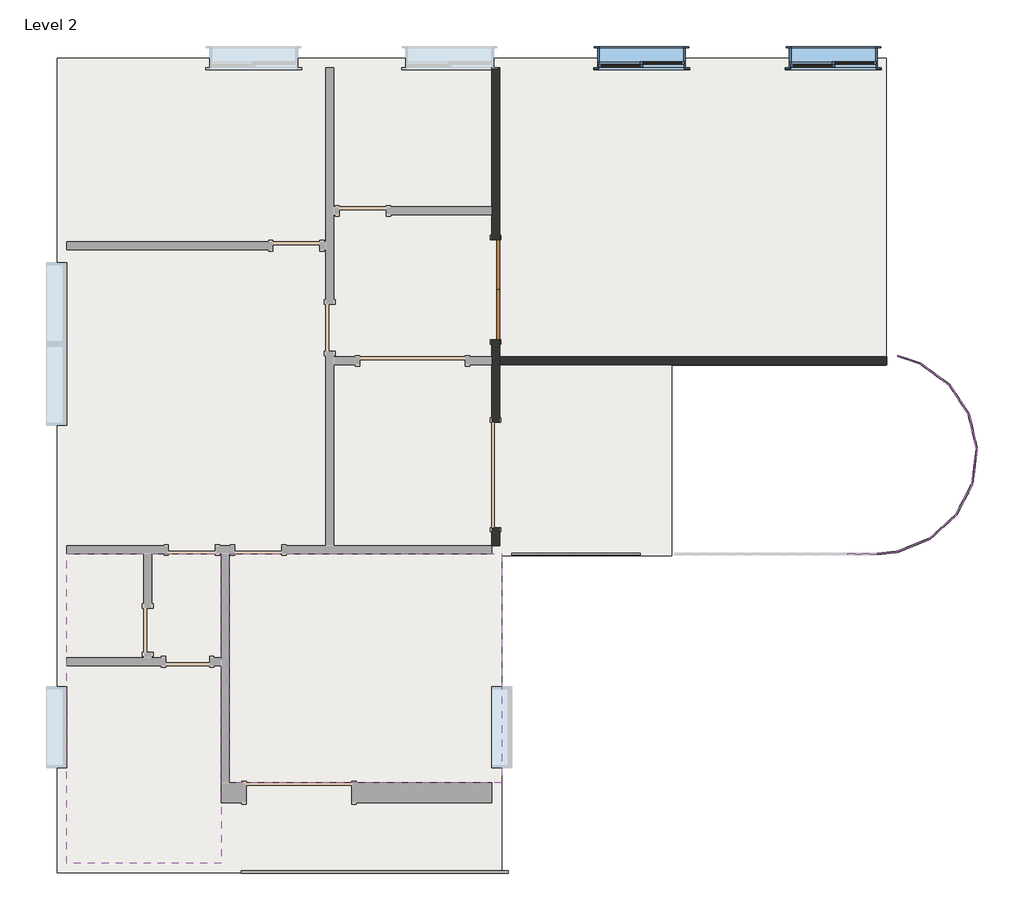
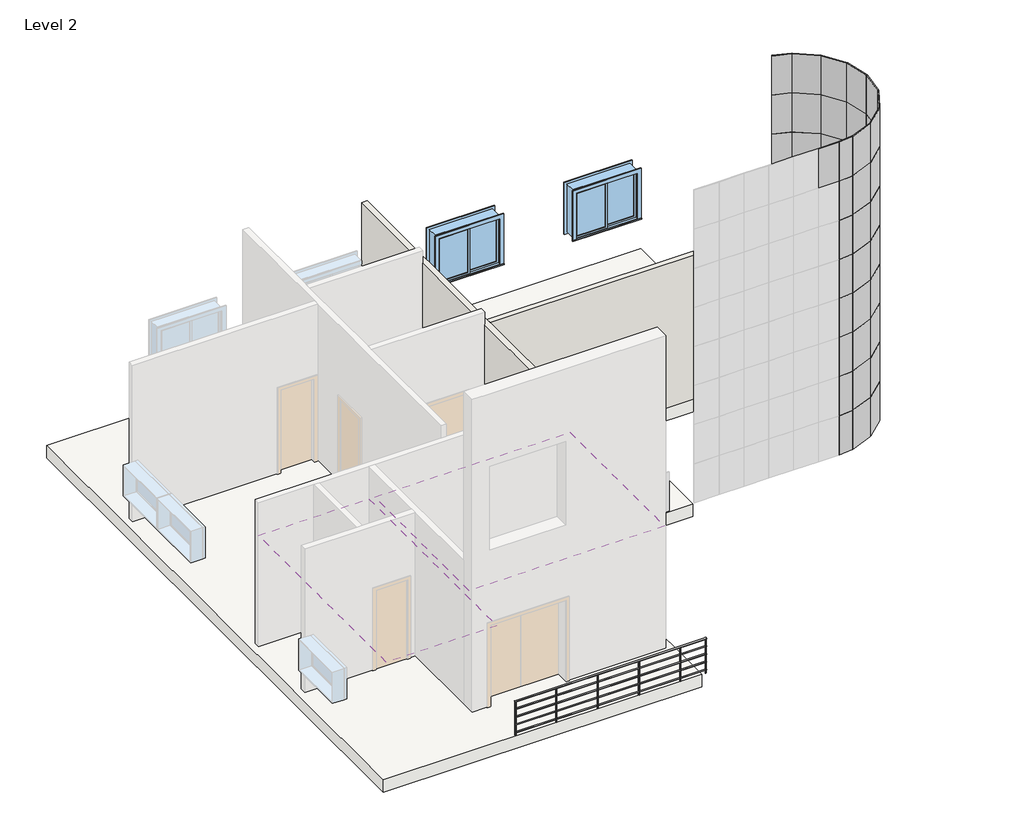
# One storey, part 2 of 2: 73 plates, 2 coverings, 2 railings, 2 walls, 2 windows, 1 door, 1 slab.
"""IFC4 building model written with IfcOpenShell, lengths in millimetres."""

from ifc_helpers import new_model, si_unit, frame, origin, place, context, project, spatial, polyline, outline, extrude, faceted_brep, transform, mapped, element, save
from components import m_double_flush_1730_x_2134mm_e0861497, system_panel_glazed_c3ce6646, system_panel_glazed_8955cf43, system_panel_glazed_1582ece5, system_panel_glazed_87374f63, railing_900mm_pipe_45b1395d, m_sliding_with_trim_1830_x_1220mm_f8e2f31e

model = new_model("IFC4")

# Units and contexts
model_context = context("Model", 3, world=origin())
ifc_project = project(units=[si_unit("LENGTHUNIT", "METRE", prefix="MILLI")], contexts=[model_context])

# Site, building, storey
site = spatial("IfcSite", under=ifc_project)
building = spatial("IfcBuilding", under=site)
storey = spatial("IfcBuildingStorey", under=building, Name="Level 2", Elevation=4000.0)

# Coverings
placement = place(None, origin())
element("IfcCovering", 1, ObjectType="600 x 600mm grid", at=placement, inside=storey, context=model_context, shape_type="SweptSolid", body=[
    extrude(outline(polyline([(-4505.3077176, -4075.1973194), (-7180.3077176, -4075.1973194), (-7180.3077176, 1286.3026806), (-4505.3077176, 1286.3026806), (-4505.3077176, -4075.1973194)])), frame((0.0, 0.0, 6850.0), z_axis=(0.0, 0.0, 1.0), x_axis=(1.0, 0.0, 0.0)), (0.0, 0.0, 1.0), 52.0),
])
element("IfcCovering", 2, ObjectType="600 x 600mm grid", at=placement, inside=storey, context=model_context, shape_type="SweptSolid", body=[
    extrude(outline(polyline([(357.3775179, 1286.3026806), (357.3775179, -2675.1973194), (-4366.8077176, -2675.1973194), (-4366.8077176, 1286.3026806), (357.3775179, 1286.3026806)])), frame((0.0, 0.0, 6850.0), z_axis=(0.0, 0.0, 1.0), x_axis=(1.0, 0.0, 0.0)), (0.0, 0.0, 1.0), 52.0),
])

# Door
m_double_flush_1730_x_2134mm_shape = m_double_flush_1730_x_2134mm_e0861497(model_context)
element("IfcDoor", 3, ObjectType="M_Double-Flush : 1730 x 2134mm", at=placement, inside=storey, context=model_context, shape_type="MappedRepresentation", body=[
    mapped(m_double_flush_1730_x_2134mm_shape, transform((251.6275179, 5865.0261065, 4000.0), x_axis=(0.0, -1.0, 0.0), y_axis=(1.0, 0.0, 0.0), z_axis=(0.0, 0.0, 1.0))),
])

# Plates
system_panel_glazed_shape = system_panel_glazed_c3ce6646(model_context)
element("IfcPlate", 4, ObjectType="System Panel : Glazed", at=placement, inside=storey, context=model_context, shape_type="MappedRepresentation", body=[
    mapped(system_panel_glazed_shape, transform((7851.5037845, 4369.0611889, 4000.0), x_axis=(0.8040191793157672, -0.5946033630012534, 0.0), y_axis=(0.5946033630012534, 0.8040191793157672, 0.0), z_axis=(0.0, 0.0, 1.0))),
])
element("IfcPlate", 5, ObjectType="System Panel : Glazed", at=placement, inside=storey, context=model_context, shape_type="MappedRepresentation", body=[
    mapped(system_panel_glazed_shape, transform((8256.9221615, 3939.6140246, 4000.0), x_axis=(0.5473754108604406, -0.8368871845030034, 0.0), y_axis=(0.8368871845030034, 0.5473754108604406, 0.0), z_axis=(0.0, 0.0, 1.0))),
])
element("IfcPlate", 6, ObjectType="System Panel : Glazed", at=placement, inside=storey, context=model_context, shape_type="MappedRepresentation", body=[
    mapped(system_panel_glazed_shape, transform((8487.8987258, 3396.0712443, 4000.0), x_axis=(0.22254647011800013, -0.9749220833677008, 0.0), y_axis=(0.9749220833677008, 0.22254647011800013, 0.0), z_axis=(0.0, 0.0, 1.0))),
])
element("IfcPlate", 7, ObjectType="System Panel : Glazed", at=placement, inside=storey, context=model_context, shape_type="MappedRepresentation", body=[
    mapped(system_panel_glazed_shape, transform((8515.6613102, 2806.140599, 4000.0), x_axis=(-0.13000452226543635, -0.9915134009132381, 0.0), y_axis=(0.9915134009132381, -0.13000452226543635, 0.0), z_axis=(0.0, 0.0, 1.0))),
])
element("IfcPlate", 8, ObjectType="System Panel : Glazed", at=placement, inside=storey, context=model_context, shape_type="MappedRepresentation", body=[
    mapped(system_panel_glazed_shape, transform((7851.5037845, 4369.0611889, 5000.0), x_axis=(0.8040191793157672, -0.5946033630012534, 0.0), y_axis=(0.5946033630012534, 0.8040191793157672, 0.0), z_axis=(0.0, 0.0, 1.0))),
])
element("IfcPlate", 9, ObjectType="System Panel : Glazed", at=placement, inside=storey, context=model_context, shape_type="MappedRepresentation", body=[
    mapped(system_panel_glazed_shape, transform((8256.9221615, 3939.6140246, 5000.0), x_axis=(0.5473754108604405, -0.8368871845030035, 0.0), y_axis=(0.8368871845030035, 0.5473754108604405, 0.0), z_axis=(0.0, 0.0, 1.0))),
])
element("IfcPlate", 10, ObjectType="System Panel : Glazed", at=placement, inside=storey, context=model_context, shape_type="MappedRepresentation", body=[
    mapped(system_panel_glazed_shape, transform((8487.8987258, 3396.0712443, 5000.0), x_axis=(0.2225464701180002, -0.9749220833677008, 0.0), y_axis=(0.9749220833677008, 0.2225464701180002, 0.0), z_axis=(0.0, 0.0, 1.0))),
])
element("IfcPlate", 11, ObjectType="System Panel : Glazed", at=placement, inside=storey, context=model_context, shape_type="MappedRepresentation", body=[
    mapped(system_panel_glazed_shape, transform((8515.6613102, 2806.140599, 5000.0), x_axis=(-0.13000452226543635, -0.9915134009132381, 0.0), y_axis=(0.9915134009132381, -0.13000452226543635, 0.0), z_axis=(0.0, 0.0, 1.0))),
])
element("IfcPlate", 12, ObjectType="System Panel : Glazed", at=placement, inside=storey, context=model_context, shape_type="MappedRepresentation", body=[
    mapped(system_panel_glazed_shape, transform((7851.5037845, 4369.0611889, 6000.0), x_axis=(0.8040191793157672, -0.5946033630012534, 0.0), y_axis=(0.5946033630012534, 0.8040191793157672, 0.0), z_axis=(0.0, 0.0, 1.0))),
])
element("IfcPlate", 13, ObjectType="System Panel : Glazed", at=placement, inside=storey, context=model_context, shape_type="MappedRepresentation", body=[
    mapped(system_panel_glazed_shape, transform((8256.9221615, 3939.6140246, 6000.0), x_axis=(0.5473754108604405, -0.8368871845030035, 0.0), y_axis=(0.8368871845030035, 0.5473754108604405, 0.0), z_axis=(0.0, 0.0, 1.0))),
])
element("IfcPlate", 14, ObjectType="System Panel : Glazed", at=placement, inside=storey, context=model_context, shape_type="MappedRepresentation", body=[
    mapped(system_panel_glazed_shape, transform((8487.8987258, 3396.0712443, 6000.0), x_axis=(0.2225464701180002, -0.9749220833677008, 0.0), y_axis=(0.9749220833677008, 0.2225464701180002, 0.0), z_axis=(0.0, 0.0, 1.0))),
])
element("IfcPlate", 15, ObjectType="System Panel : Glazed", at=placement, inside=storey, context=model_context, shape_type="MappedRepresentation", body=[
    mapped(system_panel_glazed_shape, transform((8515.6613102, 2806.140599, 6000.0), x_axis=(-0.13000452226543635, -0.9915134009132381, 0.0), y_axis=(0.9915134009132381, -0.13000452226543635, 0.0), z_axis=(0.0, 0.0, 1.0))),
])
element("IfcPlate", 16, ObjectType="System Panel : Glazed", at=placement, inside=storey, context=model_context, shape_type="MappedRepresentation", body=[
    mapped(system_panel_glazed_shape, transform((7851.5037845, 4369.0611889, 7000.0), x_axis=(0.8040191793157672, -0.5946033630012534, 0.0), y_axis=(0.5946033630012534, 0.8040191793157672, 0.0), z_axis=(0.0, 0.0, 1.0))),
])
element("IfcPlate", 17, ObjectType="System Panel : Glazed", at=placement, inside=storey, context=model_context, shape_type="MappedRepresentation", body=[
    mapped(system_panel_glazed_shape, transform((8256.9221615, 3939.6140246, 7000.0), x_axis=(0.5473754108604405, -0.8368871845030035, 0.0), y_axis=(0.8368871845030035, 0.5473754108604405, 0.0), z_axis=(0.0, 0.0, 1.0))),
])
element("IfcPlate", 18, ObjectType="System Panel : Glazed", at=placement, inside=storey, context=model_context, shape_type="MappedRepresentation", body=[
    mapped(system_panel_glazed_shape, transform((8487.8987258, 3396.0712443, 7000.0), x_axis=(0.2225464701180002, -0.9749220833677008, 0.0), y_axis=(0.9749220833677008, 0.2225464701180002, 0.0), z_axis=(0.0, 0.0, 1.0))),
])
element("IfcPlate", 19, ObjectType="System Panel : Glazed", at=placement, inside=storey, context=model_context, shape_type="MappedRepresentation", body=[
    mapped(system_panel_glazed_shape, transform((8515.6613102, 2806.140599, 7000.0), x_axis=(-0.13000452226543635, -0.9915134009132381, 0.0), y_axis=(0.9915134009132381, -0.13000452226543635, 0.0), z_axis=(0.0, 0.0, 1.0))),
])
element("IfcPlate", 20, ObjectType="System Panel : Glazed", at=placement, inside=storey, context=model_context, shape_type="MappedRepresentation", body=[
    mapped(system_panel_glazed_shape, transform((7851.5037845, 4369.0611889, 8000.0), x_axis=(0.804019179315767, -0.5946033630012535, 0.0), y_axis=(0.5946033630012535, 0.804019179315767, 0.0), z_axis=(0.0, 0.0, 1.0))),
])
element("IfcPlate", 21, ObjectType="System Panel : Glazed", at=placement, inside=storey, context=model_context, shape_type="MappedRepresentation", body=[
    mapped(system_panel_glazed_shape, transform((8256.9221615, 3939.6140246, 8000.0), x_axis=(0.5473754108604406, -0.8368871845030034, 0.0), y_axis=(0.8368871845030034, 0.5473754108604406, 0.0), z_axis=(0.0, 0.0, 1.0))),
])
element("IfcPlate", 22, ObjectType="System Panel : Glazed", at=placement, inside=storey, context=model_context, shape_type="MappedRepresentation", body=[
    mapped(system_panel_glazed_shape, transform((8487.8987258, 3396.0712443, 8000.0), x_axis=(0.2225464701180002, -0.9749220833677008, 0.0), y_axis=(0.9749220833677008, 0.2225464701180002, 0.0), z_axis=(0.0, 0.0, 1.0))),
])
element("IfcPlate", 23, ObjectType="System Panel : Glazed", at=placement, inside=storey, context=model_context, shape_type="MappedRepresentation", body=[
    mapped(system_panel_glazed_shape, transform((8515.6613102, 2806.140599, 8000.0), x_axis=(-0.13000452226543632, -0.9915134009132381, 0.0), y_axis=(0.9915134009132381, -0.13000452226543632, 0.0), z_axis=(0.0, 0.0, 1.0))),
])
element("IfcPlate", 24, ObjectType="System Panel : Glazed", at=placement, inside=storey, context=model_context, shape_type="MappedRepresentation", body=[
    mapped(system_panel_glazed_shape, transform((7851.5037845, 4369.0611889, 9000.0), x_axis=(0.8040191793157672, -0.5946033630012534, 0.0), y_axis=(0.5946033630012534, 0.8040191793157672, 0.0), z_axis=(0.0, 0.0, 1.0))),
])
element("IfcPlate", 25, ObjectType="System Panel : Glazed", at=placement, inside=storey, context=model_context, shape_type="MappedRepresentation", body=[
    mapped(system_panel_glazed_shape, transform((8256.9221615, 3939.6140246, 9000.0), x_axis=(0.5473754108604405, -0.8368871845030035, 0.0), y_axis=(0.8368871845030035, 0.5473754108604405, 0.0), z_axis=(0.0, 0.0, 1.0))),
])
element("IfcPlate", 26, ObjectType="System Panel : Glazed", at=placement, inside=storey, context=model_context, shape_type="MappedRepresentation", body=[
    mapped(system_panel_glazed_shape, transform((8487.8987258, 3396.0712443, 9000.0), x_axis=(0.2225464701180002, -0.9749220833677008, 0.0), y_axis=(0.9749220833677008, 0.2225464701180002, 0.0), z_axis=(0.0, 0.0, 1.0))),
])
element("IfcPlate", 27, ObjectType="System Panel : Glazed", at=placement, inside=storey, context=model_context, shape_type="MappedRepresentation", body=[
    mapped(system_panel_glazed_shape, transform((8515.6613102, 2806.140599, 9000.0), x_axis=(-0.13000452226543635, -0.9915134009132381, 0.0), y_axis=(0.9915134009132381, -0.13000452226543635, 0.0), z_axis=(0.0, 0.0, 1.0))),
])
element("IfcPlate", 28, ObjectType="System Panel : Glazed", at=placement, inside=storey, context=model_context, shape_type="MappedRepresentation", body=[
    mapped(system_panel_glazed_shape, transform((7851.5037845, 4369.0611889, 10000.0), x_axis=(0.8040191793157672, -0.5946033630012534, 0.0), y_axis=(0.5946033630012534, 0.8040191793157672, 0.0), z_axis=(0.0, 0.0, 1.0))),
])
element("IfcPlate", 29, ObjectType="System Panel : Glazed", at=placement, inside=storey, context=model_context, shape_type="MappedRepresentation", body=[
    mapped(system_panel_glazed_shape, transform((8256.9221615, 3939.6140246, 10000.0), x_axis=(0.5473754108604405, -0.8368871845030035, 0.0), y_axis=(0.8368871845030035, 0.5473754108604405, 0.0), z_axis=(0.0, 0.0, 1.0))),
])
element("IfcPlate", 30, ObjectType="System Panel : Glazed", at=placement, inside=storey, context=model_context, shape_type="MappedRepresentation", body=[
    mapped(system_panel_glazed_shape, transform((8487.8987258, 3396.0712443, 10000.0), x_axis=(0.2225464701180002, -0.9749220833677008, 0.0), y_axis=(0.9749220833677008, 0.2225464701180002, 0.0), z_axis=(0.0, 0.0, 1.0))),
])
element("IfcPlate", 31, ObjectType="System Panel : Glazed", at=placement, inside=storey, context=model_context, shape_type="MappedRepresentation", body=[
    mapped(system_panel_glazed_shape, transform((8515.6613102, 2806.140599, 10000.0), x_axis=(-0.13000452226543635, -0.9915134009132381, 0.0), y_axis=(0.9915134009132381, -0.13000452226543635, 0.0), z_axis=(0.0, 0.0, 1.0))),
])
element("IfcPlate", 32, ObjectType="System Panel : Glazed", at=placement, inside=storey, context=model_context, shape_type="MappedRepresentation", body=[
    mapped(system_panel_glazed_shape, transform((7851.5037845, 4369.0611889, 11000.0), x_axis=(0.8040191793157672, -0.5946033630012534, 0.0), y_axis=(0.5946033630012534, 0.8040191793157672, 0.0), z_axis=(0.0, 0.0, 1.0))),
])
element("IfcPlate", 33, ObjectType="System Panel : Glazed", at=placement, inside=storey, context=model_context, shape_type="MappedRepresentation", body=[
    mapped(system_panel_glazed_shape, transform((8256.9221615, 3939.6140246, 11000.0), x_axis=(0.5473754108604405, -0.8368871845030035, 0.0), y_axis=(0.8368871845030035, 0.5473754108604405, 0.0), z_axis=(0.0, 0.0, 1.0))),
])
element("IfcPlate", 34, ObjectType="System Panel : Glazed", at=placement, inside=storey, context=model_context, shape_type="MappedRepresentation", body=[
    mapped(system_panel_glazed_shape, transform((8487.8987258, 3396.0712443, 11000.0), x_axis=(0.2225464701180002, -0.9749220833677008, 0.0), y_axis=(0.9749220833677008, 0.2225464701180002, 0.0), z_axis=(0.0, 0.0, 1.0))),
])
element("IfcPlate", 35, ObjectType="System Panel : Glazed", at=placement, inside=storey, context=model_context, shape_type="MappedRepresentation", body=[
    mapped(system_panel_glazed_shape, transform((8515.6613102, 2806.140599, 11000.0), x_axis=(-0.13000452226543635, -0.9915134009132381, 0.0), y_axis=(0.9915134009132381, -0.13000452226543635, 0.0), z_axis=(0.0, 0.0, 1.0))),
])
element("IfcPlate", 36, ObjectType="System Panel : Glazed", at=placement, inside=storey, context=model_context, shape_type="MappedRepresentation", body=[
    mapped(system_panel_glazed_shape, transform((8336.7515996, 2243.3082591, 4000.0), x_axis=(-0.46636117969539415, -0.8845943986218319, 0.0), y_axis=(0.8845943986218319, -0.46636117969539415, 0.0), z_axis=(0.0, 0.0, 1.0))),
])
element("IfcPlate", 37, ObjectType="System Panel : Glazed", at=placement, inside=storey, context=model_context, shape_type="MappedRepresentation", body=[
    mapped(system_panel_glazed_shape, transform((8336.7515996, 2243.3082591, 5000.0), x_axis=(-0.4663611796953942, -0.8845943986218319, 0.0), y_axis=(0.8845943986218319, -0.4663611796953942, 0.0), z_axis=(0.0, 0.0, 1.0))),
])
element("IfcPlate", 38, ObjectType="System Panel : Glazed", at=placement, inside=storey, context=model_context, shape_type="MappedRepresentation", body=[
    mapped(system_panel_glazed_shape, transform((8336.7515996, 2243.3082591, 6000.0), x_axis=(-0.4663611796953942, -0.8845943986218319, 0.0), y_axis=(0.8845943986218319, -0.4663611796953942, 0.0), z_axis=(0.0, 0.0, 1.0))),
])
element("IfcPlate", 39, ObjectType="System Panel : Glazed", at=placement, inside=storey, context=model_context, shape_type="MappedRepresentation", body=[
    mapped(system_panel_glazed_shape, transform((8336.7515996, 2243.3082591, 7000.0), x_axis=(-0.4663611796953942, -0.8845943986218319, 0.0), y_axis=(0.8845943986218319, -0.4663611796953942, 0.0), z_axis=(0.0, 0.0, 1.0))),
])
element("IfcPlate", 40, ObjectType="System Panel : Glazed", at=placement, inside=storey, context=model_context, shape_type="MappedRepresentation", body=[
    mapped(system_panel_glazed_shape, transform((8336.7515996, 2243.3082591, 8000.0), x_axis=(-0.46636117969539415, -0.8845943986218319, 0.0), y_axis=(0.8845943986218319, -0.46636117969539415, 0.0), z_axis=(0.0, 0.0, 1.0))),
])
element("IfcPlate", 41, ObjectType="System Panel : Glazed", at=placement, inside=storey, context=model_context, shape_type="MappedRepresentation", body=[
    mapped(system_panel_glazed_shape, transform((8336.7515996, 2243.3082591, 9000.0), x_axis=(-0.4663611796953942, -0.8845943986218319, 0.0), y_axis=(0.8845943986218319, -0.4663611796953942, 0.0), z_axis=(0.0, 0.0, 1.0))),
])
element("IfcPlate", 42, ObjectType="System Panel : Glazed", at=placement, inside=storey, context=model_context, shape_type="MappedRepresentation", body=[
    mapped(system_panel_glazed_shape, transform((8336.7515996, 2243.3082591, 10000.0), x_axis=(-0.4663611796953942, -0.8845943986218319, 0.0), y_axis=(0.8845943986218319, -0.4663611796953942, 0.0), z_axis=(0.0, 0.0, 1.0))),
])
element("IfcPlate", 43, ObjectType="System Panel : Glazed", at=placement, inside=storey, context=model_context, shape_type="MappedRepresentation", body=[
    mapped(system_panel_glazed_shape, transform((8336.7515996, 2243.3082591, 11000.0), x_axis=(-0.4663611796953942, -0.8845943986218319, 0.0), y_axis=(0.8845943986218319, -0.4663611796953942, 0.0), z_axis=(0.0, 0.0, 1.0))),
])
element("IfcPlate", 44, ObjectType="System Panel : Glazed", at=placement, inside=storey, context=model_context, shape_type="MappedRepresentation", body=[
    mapped(system_panel_glazed_shape, transform((7973.4559248, 1777.6848276, 4000.0), x_axis=(-0.7446244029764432, -0.6674837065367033, 0.0), y_axis=(0.6674837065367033, -0.7446244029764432, 0.0), z_axis=(0.0, 0.0, 1.0))),
])
element("IfcPlate", 45, ObjectType="System Panel : Glazed", at=placement, inside=storey, context=model_context, shape_type="MappedRepresentation", body=[
    mapped(system_panel_glazed_shape, transform((7973.4559248, 1777.6848276, 5000.0), x_axis=(-0.7446244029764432, -0.6674837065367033, 0.0), y_axis=(0.6674837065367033, -0.7446244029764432, 0.0), z_axis=(0.0, 0.0, 1.0))),
])
element("IfcPlate", 46, ObjectType="System Panel : Glazed", at=placement, inside=storey, context=model_context, shape_type="MappedRepresentation", body=[
    mapped(system_panel_glazed_shape, transform((7973.4559248, 1777.6848276, 6000.0), x_axis=(-0.7446244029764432, -0.6674837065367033, 0.0), y_axis=(0.6674837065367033, -0.7446244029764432, 0.0), z_axis=(0.0, 0.0, 1.0))),
])
element("IfcPlate", 47, ObjectType="System Panel : Glazed", at=placement, inside=storey, context=model_context, shape_type="MappedRepresentation", body=[
    mapped(system_panel_glazed_shape, transform((7973.4559248, 1777.6848276, 7000.0), x_axis=(-0.7446244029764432, -0.6674837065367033, 0.0), y_axis=(0.6674837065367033, -0.7446244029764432, 0.0), z_axis=(0.0, 0.0, 1.0))),
])
element("IfcPlate", 48, ObjectType="System Panel : Glazed", at=placement, inside=storey, context=model_context, shape_type="MappedRepresentation", body=[
    mapped(system_panel_glazed_shape, transform((7973.4559248, 1777.6848276, 8000.0), x_axis=(-0.744624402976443, -0.6674837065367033, 0.0), y_axis=(0.6674837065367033, -0.744624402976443, 0.0), z_axis=(0.0, 0.0, 1.0))),
])
element("IfcPlate", 49, ObjectType="System Panel : Glazed", at=placement, inside=storey, context=model_context, shape_type="MappedRepresentation", body=[
    mapped(system_panel_glazed_shape, transform((7973.4559248, 1777.6848276, 9000.0), x_axis=(-0.7446244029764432, -0.6674837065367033, 0.0), y_axis=(0.6674837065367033, -0.7446244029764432, 0.0), z_axis=(0.0, 0.0, 1.0))),
])
element("IfcPlate", 50, ObjectType="System Panel : Glazed", at=placement, inside=storey, context=model_context, shape_type="MappedRepresentation", body=[
    mapped(system_panel_glazed_shape, transform((7973.4559248, 1777.6848276, 10000.0), x_axis=(-0.7446244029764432, -0.6674837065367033, 0.0), y_axis=(0.6674837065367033, -0.7446244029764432, 0.0), z_axis=(0.0, 0.0, 1.0))),
])
element("IfcPlate", 51, ObjectType="System Panel : Glazed", at=placement, inside=storey, context=model_context, shape_type="MappedRepresentation", body=[
    mapped(system_panel_glazed_shape, transform((7973.4559248, 1777.6848276, 11000.0), x_axis=(-0.7446244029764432, -0.6674837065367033, 0.0), y_axis=(0.6674837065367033, -0.7446244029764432, 0.0), z_axis=(0.0, 0.0, 1.0))),
])
element("IfcPlate", 52, ObjectType="System Panel : Glazed", at=placement, inside=storey, context=model_context, shape_type="MappedRepresentation", body=[
    mapped(system_panel_glazed_shape, transform((7471.0291103, 1467.2718391, 4000.0), x_axis=(-0.9301316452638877, -0.367226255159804, 0.0), y_axis=(0.367226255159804, -0.9301316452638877, 0.0), z_axis=(0.0, 0.0, 1.0))),
])
element("IfcPlate", 53, ObjectType="System Panel : Glazed", at=placement, inside=storey, context=model_context, shape_type="MappedRepresentation", body=[
    mapped(system_panel_glazed_shape, transform((7471.0291103, 1467.2718391, 5000.0), x_axis=(-0.9301316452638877, -0.36722625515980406, 0.0), y_axis=(0.36722625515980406, -0.9301316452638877, 0.0), z_axis=(0.0, 0.0, 1.0))),
])
element("IfcPlate", 54, ObjectType="System Panel : Glazed", at=placement, inside=storey, context=model_context, shape_type="MappedRepresentation", body=[
    mapped(system_panel_glazed_shape, transform((7471.0291103, 1467.2718391, 6000.0), x_axis=(-0.9301316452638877, -0.36722625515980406, 0.0), y_axis=(0.36722625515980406, -0.9301316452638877, 0.0), z_axis=(0.0, 0.0, 1.0))),
])
element("IfcPlate", 55, ObjectType="System Panel : Glazed", at=placement, inside=storey, context=model_context, shape_type="MappedRepresentation", body=[
    mapped(system_panel_glazed_shape, transform((7471.0291103, 1467.2718391, 7000.0), x_axis=(-0.9301316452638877, -0.36722625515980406, 0.0), y_axis=(0.36722625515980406, -0.9301316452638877, 0.0), z_axis=(0.0, 0.0, 1.0))),
])
element("IfcPlate", 56, ObjectType="System Panel : Glazed", at=placement, inside=storey, context=model_context, shape_type="MappedRepresentation", body=[
    mapped(system_panel_glazed_shape, transform((7471.0291103, 1467.2718391, 8000.0), x_axis=(-0.9301316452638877, -0.367226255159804, 0.0), y_axis=(0.367226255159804, -0.9301316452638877, 0.0), z_axis=(0.0, 0.0, 1.0))),
])
element("IfcPlate", 57, ObjectType="System Panel : Glazed", at=placement, inside=storey, context=model_context, shape_type="MappedRepresentation", body=[
    mapped(system_panel_glazed_shape, transform((7471.0291103, 1467.2718391, 9000.0), x_axis=(-0.9301316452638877, -0.36722625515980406, 0.0), y_axis=(0.36722625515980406, -0.9301316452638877, 0.0), z_axis=(0.0, 0.0, 1.0))),
])
element("IfcPlate", 58, ObjectType="System Panel : Glazed", at=placement, inside=storey, context=model_context, shape_type="MappedRepresentation", body=[
    mapped(system_panel_glazed_shape, transform((7471.0291103, 1467.2718391, 10000.0), x_axis=(-0.9301316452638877, -0.36722625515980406, 0.0), y_axis=(0.36722625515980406, -0.9301316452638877, 0.0), z_axis=(0.0, 0.0, 1.0))),
])
element("IfcPlate", 59, ObjectType="System Panel : Glazed", at=placement, inside=storey, context=model_context, shape_type="MappedRepresentation", body=[
    mapped(system_panel_glazed_shape, transform((7471.0291103, 1467.2718391, 11000.0), x_axis=(-0.9301316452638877, -0.36722625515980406, 0.0), y_axis=(0.36722625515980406, -0.9301316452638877, 0.0), z_axis=(0.0, 0.0, 1.0))),
])
system_panel_glazed_2_shape = system_panel_glazed_8955cf43(model_context)
element("IfcPlate", 60, ObjectType="System Panel : Glazed", at=placement, inside=storey, context=model_context, shape_type="MappedRepresentation", body=[
    mapped(system_panel_glazed_2_shape, transform((6608.1852814, 1249.8026806, 11000.0), x_axis=(1.0, 0.0, 0.0), y_axis=(0.0, 1.0, 0.0), z_axis=(0.0, 0.0, 1.0))),
])
system_panel_glazed_3_shape = system_panel_glazed_1582ece5(model_context)
element("IfcPlate", 61, ObjectType="System Panel : Glazed", at=placement, inside=storey, context=model_context, shape_type="MappedRepresentation", body=[
    mapped(system_panel_glazed_3_shape, transform((7409.0145198, 4617.2259296, 4000.0), x_axis=(0.9448282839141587, -0.3275660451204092, 0.0), y_axis=(0.3275660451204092, 0.9448282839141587, 0.0), z_axis=(0.0, 0.0, 1.0))),
])
element("IfcPlate", 62, ObjectType="System Panel : Glazed", at=placement, inside=storey, context=model_context, shape_type="MappedRepresentation", body=[
    mapped(system_panel_glazed_3_shape, transform((7409.0145198, 4617.2259296, 5000.0), x_axis=(0.9448282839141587, -0.32756604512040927, 0.0), y_axis=(0.32756604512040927, 0.9448282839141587, 0.0), z_axis=(0.0, 0.0, 1.0))),
])
element("IfcPlate", 63, ObjectType="System Panel : Glazed", at=placement, inside=storey, context=model_context, shape_type="MappedRepresentation", body=[
    mapped(system_panel_glazed_3_shape, transform((7409.0145198, 4617.2259296, 6000.0), x_axis=(0.9448282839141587, -0.32756604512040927, 0.0), y_axis=(0.32756604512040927, 0.9448282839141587, 0.0), z_axis=(0.0, 0.0, 1.0))),
])
element("IfcPlate", 64, ObjectType="System Panel : Glazed", at=placement, inside=storey, context=model_context, shape_type="MappedRepresentation", body=[
    mapped(system_panel_glazed_3_shape, transform((7409.0145198, 4617.2259296, 7000.0), x_axis=(0.9448282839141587, -0.32756604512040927, 0.0), y_axis=(0.32756604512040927, 0.9448282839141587, 0.0), z_axis=(0.0, 0.0, 1.0))),
])
element("IfcPlate", 65, ObjectType="System Panel : Glazed", at=placement, inside=storey, context=model_context, shape_type="MappedRepresentation", body=[
    mapped(system_panel_glazed_3_shape, transform((7409.0145198, 4617.2259296, 8000.0), x_axis=(0.9448282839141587, -0.32756604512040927, 0.0), y_axis=(0.32756604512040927, 0.9448282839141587, 0.0), z_axis=(0.0, 0.0, 1.0))),
])
element("IfcPlate", 66, ObjectType="System Panel : Glazed", at=placement, inside=storey, context=model_context, shape_type="MappedRepresentation", body=[
    mapped(system_panel_glazed_3_shape, transform((7409.0145198, 4617.2259296, 9000.0), x_axis=(0.9448282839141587, -0.32756604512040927, 0.0), y_axis=(0.32756604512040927, 0.9448282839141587, 0.0), z_axis=(0.0, 0.0, 1.0))),
])
element("IfcPlate", 67, ObjectType="System Panel : Glazed", at=placement, inside=storey, context=model_context, shape_type="MappedRepresentation", body=[
    mapped(system_panel_glazed_3_shape, transform((7409.0145198, 4617.2259296, 10000.0), x_axis=(0.9448282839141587, -0.32756604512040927, 0.0), y_axis=(0.32756604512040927, 0.9448282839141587, 0.0), z_axis=(0.0, 0.0, 1.0))),
])
element("IfcPlate", 68, ObjectType="System Panel : Glazed", at=placement, inside=storey, context=model_context, shape_type="MappedRepresentation", body=[
    mapped(system_panel_glazed_3_shape, transform((7409.0145198, 4617.2259296, 11000.0), x_axis=(0.9448282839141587, -0.32756604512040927, 0.0), y_axis=(0.32756604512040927, 0.9448282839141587, 0.0), z_axis=(0.0, 0.0, 1.0))),
])
system_panel_glazed_4_shape = system_panel_glazed_87374f63(model_context)
element("IfcPlate", 69, ObjectType="System Panel : Glazed", at=placement, inside=storey, context=model_context, shape_type="MappedRepresentation", body=[
    mapped(system_panel_glazed_4_shape, transform((7024.2658352, 1340.3918678, 4000.0), x_axis=(-0.9950725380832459, -0.09914960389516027, 0.0), y_axis=(0.09914960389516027, -0.9950725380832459, 0.0), z_axis=(0.0, 0.0, 1.0))),
])
element("IfcPlate", 70, ObjectType="System Panel : Glazed", at=placement, inside=storey, context=model_context, shape_type="MappedRepresentation", body=[
    mapped(system_panel_glazed_4_shape, transform((7024.2658352, 1340.3918678, 5000.0), x_axis=(-0.9950725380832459, -0.09914960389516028, 0.0), y_axis=(0.09914960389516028, -0.9950725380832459, 0.0), z_axis=(0.0, 0.0, 1.0))),
])
element("IfcPlate", 71, ObjectType="System Panel : Glazed", at=placement, inside=storey, context=model_context, shape_type="MappedRepresentation", body=[
    mapped(system_panel_glazed_4_shape, transform((7024.2658352, 1340.3918678, 6000.0), x_axis=(-0.9950725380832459, -0.09914960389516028, 0.0), y_axis=(0.09914960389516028, -0.9950725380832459, 0.0), z_axis=(0.0, 0.0, 1.0))),
])
element("IfcPlate", 72, ObjectType="System Panel : Glazed", at=placement, inside=storey, context=model_context, shape_type="MappedRepresentation", body=[
    mapped(system_panel_glazed_4_shape, transform((7024.2658352, 1340.3918678, 7000.0), x_axis=(-0.9950725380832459, -0.09914960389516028, 0.0), y_axis=(0.09914960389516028, -0.9950725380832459, 0.0), z_axis=(0.0, 0.0, 1.0))),
])
element("IfcPlate", 73, ObjectType="System Panel : Glazed", at=placement, inside=storey, context=model_context, shape_type="MappedRepresentation", body=[
    mapped(system_panel_glazed_4_shape, transform((7024.2658352, 1340.3918678, 8000.0), x_axis=(-0.9950725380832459, -0.09914960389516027, 0.0), y_axis=(0.09914960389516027, -0.9950725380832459, 0.0), z_axis=(0.0, 0.0, 1.0))),
])
element("IfcPlate", 74, ObjectType="System Panel : Glazed", at=placement, inside=storey, context=model_context, shape_type="MappedRepresentation", body=[
    mapped(system_panel_glazed_4_shape, transform((7024.2658352, 1340.3918678, 9000.0), x_axis=(-0.9950725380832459, -0.09914960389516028, 0.0), y_axis=(0.09914960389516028, -0.9950725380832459, 0.0), z_axis=(0.0, 0.0, 1.0))),
])
element("IfcPlate", 75, ObjectType="System Panel : Glazed", at=placement, inside=storey, context=model_context, shape_type="MappedRepresentation", body=[
    mapped(system_panel_glazed_4_shape, transform((7024.2658352, 1340.3918678, 10000.0), x_axis=(-0.9950725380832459, -0.09914960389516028, 0.0), y_axis=(0.09914960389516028, -0.9950725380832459, 0.0), z_axis=(0.0, 0.0, 1.0))),
])
element("IfcPlate", 76, ObjectType="System Panel : Glazed", at=placement, inside=storey, context=model_context, shape_type="MappedRepresentation", body=[
    mapped(system_panel_glazed_4_shape, transform((7024.2658352, 1340.3918678, 11000.0), x_axis=(-0.9950725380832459, -0.09914960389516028, 0.0), y_axis=(0.09914960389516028, -0.9950725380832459, 0.0), z_axis=(0.0, 0.0, 1.0))),
])

# Railings
railing_900mm_pipe_shape = railing_900mm_pipe_45b1395d(model_context)
element("IfcRailing", 77, ObjectType="900mm Pipe", at=placement, inside=storey, context=model_context, shape_type="MappedRepresentation", body=[
    mapped(railing_900mm_pipe_shape, transform((0.0, 0.0, 0.0), x_axis=(1.0, 0.0, 0.0), y_axis=(0.0, 1.0, 0.0), z_axis=(0.0, 0.0, 1.0))),
])
element("IfcRailing", 78, ObjectType="900mm Pipe", at=placement, inside=storey, context=model_context, shape_type="MappedRepresentation", body=[
    mapped(railing_900mm_pipe_shape, transform((0.0, 0.0, 0.0), x_axis=(1.0, 0.0, 0.0), y_axis=(0.0, 1.0, 0.0), z_axis=(0.0, 0.0, 1.0))),
])

# Slab
element("IfcSlab", 79, ObjectType="Residential 320mm", at=placement, inside=storey, context=model_context, shape_type="SweptSolid", body=[
    extrude(outline(polyline([(-7345.3077176, -4240.1973194), (-7345.3077176, 9876.6003657), (7023.993045, 9876.6003657), (7023.993045, 4561.5261065), (3308.993045, 4561.5261065), (3308.993045, 1259.8026806), (357.3775179, 1259.8026806), (357.3775179, -4240.1973194), (-7345.3077176, -4240.1973194)])), frame((0.0, 0.0, 3680.0), z_axis=(0.0, 0.0, 1.0), x_axis=(1.0, 0.0, 0.0)), (0.0, 0.0, 1.0), 320.0),
])

# Walls
element("IfcWall", 80, ObjectType="Interior - 138mm Partition (1-hr)", at=placement, inside=storey, context=model_context, shape_type="Brep", body=[
    faceted_brep([(320.8775179, 3573.1003657, 4000.0), (320.8775179, 4561.5261065, 4000.0), (320.8775179, 4700.0261065, 4000.0), (320.8775179, 5000.0261065, 4000.0), (320.8775179, 5000.0261065, 6134.0), (320.8775179, 6730.0261065, 6134.0), (320.8775179, 6730.0261065, 4000.0), (320.8775179, 9711.6003657, 4000.0), (320.8775179, 9711.6003657, 7680.0), (320.8775179, 4700.0261065, 7680.0), (320.8775179, 4561.5261065, 7680.0), (320.8775179, 1424.8026806, 7680.0), (320.8775179, 1424.8026806, 4000.0), (320.8775179, 1743.1003657, 4000.0), (320.8775179, 1743.1003657, 6083.0), (320.8775179, 3573.1003657, 6083.0), (182.3775179, 5000.0261065, 6134.0), (182.3775179, 5000.0261065, 4000.0), (182.3775179, 4700.0261065, 4000.0), (182.3775179, 4561.5261065, 4000.0), (182.3775179, 3573.1003657, 4000.0), (182.3775179, 3573.1003657, 6083.0), (182.3775179, 1743.1003657, 6083.0), (182.3775179, 1743.1003657, 4000.0), (182.3775179, 1424.8026806, 4000.0), (182.3775179, 1424.8026806, 7680.0), (182.3775179, 9711.6003657, 7680.0), (182.3775179, 9711.6003657, 4000.0), (182.3775179, 7300.0261065, 4000.0), (182.3775179, 7161.5261065, 4000.0), (182.3775179, 6730.0261065, 4000.0), (182.3775179, 6730.0261065, 6134.0)], [[[0, 1, 2, 3, 4, 5, 6, 7, 8, 9, 10, 11, 12, 13, 14, 15]], [[16, 17, 18, 19, 20, 21, 22, 23, 24, 25, 26, 27, 28, 29, 30, 31]], [[20, 19, 18, 17, 3, 2, 1, 0]], [[13, 12, 24, 23]], [[30, 29, 28, 27, 7, 6]], [[8, 7, 27, 26]], [[12, 11, 25, 24]], [[11, 10, 9, 8, 26, 25]], [[21, 20, 0, 15]], [[22, 21, 15, 14]], [[23, 22, 14, 13]], [[4, 3, 17, 16]], [[5, 4, 16, 31]], [[6, 5, 31, 30]]]),
])
element("IfcWall", 81, ObjectType="Interior - 138mm Partition (1-hr)", at=placement, inside=storey, context=model_context, shape_type="Brep", body=[
    faceted_brep([(320.8775179, 4561.5261065, 4000.0), (7033.993045, 4561.5261065, 4000.0), (7033.993045, 4561.5261065, 7680.0), (7023.993045, 4561.5261065, 7680.0), (3308.993045, 4561.5261065, 7680.0), (320.8775179, 4561.5261065, 7680.0), (320.8775179, 4700.0261065, 4000.0), (320.8775179, 4700.0261065, 7680.0), (7023.993045, 4700.0261065, 7680.0), (7033.993045, 4700.0261065, 7680.0), (7033.993045, 4700.0261065, 4000.0)], [[[0, 1, 2, 3, 4, 5]], [[6, 7, 8, 9, 10]], [[1, 0, 6, 10]], [[2, 1, 10, 9]], [[0, 5, 7, 6]], [[3, 2, 9, 8]], [[5, 4, 3, 8, 7]]]),
])

# Windows
m_sliding_with_trim_1830_x_1220mm_shape = m_sliding_with_trim_1830_x_1220mm_f8e2f31e(model_context)
element("IfcWindow", 82, ObjectType="M_Sliding with Trim : 1830 x 1220mm", at=placement, inside=storey, context=model_context, shape_type="MappedRepresentation", body=[
    mapped(m_sliding_with_trim_1830_x_1220mm_shape, transform((6107.6922824, 9886.6003657, 4000.0), x_axis=(-1.0, 0.0, 0.0), y_axis=(0.0, -1.0, 0.0), z_axis=(0.0, 0.0, 1.0))),
])
element("IfcWindow", 83, ObjectType="M_Sliding with Trim : 1830 x 1220mm", at=placement, inside=storey, context=model_context, shape_type="MappedRepresentation", body=[
    mapped(m_sliding_with_trim_1830_x_1220mm_shape, transform((2781.6922824, 9886.6003657, 4000.0), x_axis=(-1.0, 0.0, 0.0), y_axis=(0.0, -1.0, 0.0), z_axis=(0.0, 0.0, 1.0))),
])

save(model, "model.ifc")
